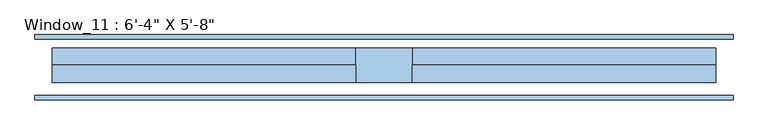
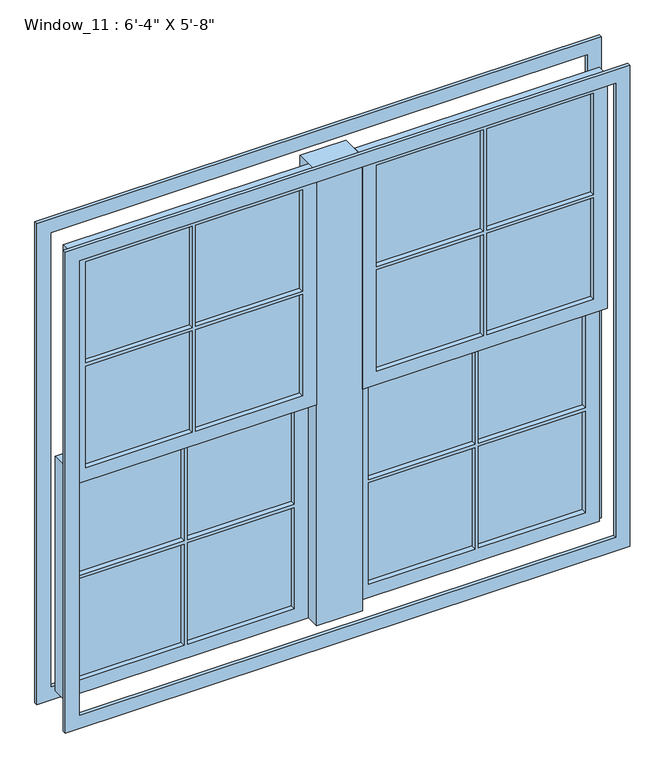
"""IFC4 building model written with IfcOpenShell, lengths in millimetres: window geometry."""

import ifcopenshell
import ifcopenshell.guid

model = None  # the IFC model being written
_history = None  # IfcOwnerHistory: only IFC2X3 demands one
_inside = {}  # id of a spatial element -> (the spatial element, [elements in it])
_under = {}  # id of a project, library or spatial element -> (it, [spatial elements below it])
_declared = {}  # id of a project -> (the project, [libraries it declares])
_typed = {}  # id of a type object -> (the type object, [elements of that type])
_made_of = {}  # id of a material, layer set ... -> (it, [elements and type objects made of it])


def new_model(schema):
    """Start an empty IFC model of exactly this schema.

    Asked for "IFC4X3", IfcOpenShell would pick the latest addendum, in which some entities
    have other attributes; the version numbers below select the first issue.
    IFC2X3 requires an IfcOwnerHistory on every rooted entity: one is made here for all.
    """
    global model, _history
    if schema == "IFC4X3":
        model = ifcopenshell.file(schema_version=(4, 3, 0, 0))
    else:
        model = ifcopenshell.file(schema=schema)
    _inside.clear()
    _under.clear()
    _declared.clear()
    _typed.clear()
    _made_of.clear()
    _history = None
    if model.schema == "IFC2X3":
        org = make("IfcOrganization", Name="unknown")
        user = make(
            "IfcPersonAndOrganization",
            ThePerson=make("IfcPerson", FamilyName="unknown"),
            TheOrganization=org,
        )
        app = make(
            "IfcApplication",
            ApplicationDeveloper=org,
            Version="unknown",
            ApplicationFullName="unknown",
            ApplicationIdentifier="unknown",
        )
        _history = make(
            "IfcOwnerHistory",
            OwningUser=user,
            OwningApplication=app,
            ChangeAction="ADDED",
            CreationDate=0,
        )
    return model


def make(cls, **values):
    """One entity of the class cls with the attributes given. An attribute that is None is left unset."""
    return model.create_entity(
        cls, **{name: value for name, value in values.items() if value is not None}
    )


def rooted(cls, **values):
    """An entity with a GlobalId (a new one), such as an element, a storey or a relation."""
    return make(cls, GlobalId=ifcopenshell.guid.new(), OwnerHistory=_history, **values)


def si_unit(unit_type, name, prefix=None):
    """IfcSIUnit, for example si_unit("LENGTHUNIT", "METRE", prefix="MILLI")."""
    return make("IfcSIUnit", UnitType=unit_type, Prefix=prefix, Name=name)


def assignment(units):
    """IfcUnitAssignment: the units of a project."""
    return None if units is None else make("IfcUnitAssignment", Units=units)


def point(xyz):
    """IfcCartesianPoint."""
    return None if xyz is None else make("IfcCartesianPoint", Coordinates=xyz)


def direction(xyz):
    """IfcDirection."""
    return None if xyz is None else make("IfcDirection", DirectionRatios=xyz)


def frame(location, z_axis=None, x_axis=None):
    """IfcAxis2Placement3D, a coordinate frame: its origin and axes. An axis left out is left unset."""
    return make(
        "IfcAxis2Placement3D",
        Location=point(location),
        Axis=direction(z_axis),
        RefDirection=direction(x_axis),
    )


def origin():
    """The frame at (0, 0, 0) with its axes left unset."""
    return frame((0.0, 0.0, 0.0))


def place(relative_to, where):
    """IfcLocalPlacement: puts the frame where relative to a parent placement (None: the world)."""
    return make(
        "IfcLocalPlacement", PlacementRelTo=relative_to, RelativePlacement=where
    )


def context(
    kind, dimensions, precision=None, world=None, true_north=None, identifier=None
):
    """IfcGeometricRepresentationContext, for example the 3D "Model" context."""
    return make(
        "IfcGeometricRepresentationContext",
        ContextIdentifier=identifier,
        ContextType=kind,
        CoordinateSpaceDimension=dimensions,
        Precision=precision,
        WorldCoordinateSystem=world,
        TrueNorth=true_north,
    )


def project(units=None, contexts=None):
    """IfcProject with its units and contexts."""
    return rooted(
        "IfcProject",
        Name="project",
        RepresentationContexts=contexts,
        UnitsInContext=assignment(units),
    )


def spatial(cls, under=None, at=None, **own):
    """A site, building, storey or space (cls), placed at a placement, below another one or the project."""
    s = rooted(cls, ObjectPlacement=at, **own)
    if under is not None:
        _under.setdefault(under.id(), (under, []))[1].append(s)
    return s


def polyline(points):
    """IfcPolyline through the points."""
    return make("IfcPolyline", Points=[point(p) for p in points])


def outline(outer, holes=None, kind="AREA"):
    """IfcArbitraryClosedProfileDef: a profile drawn as a closed curve; with holes, ...WithVoids."""
    if holes is None:
        return make("IfcArbitraryClosedProfileDef", ProfileType=kind, OuterCurve=outer)
    return make(
        "IfcArbitraryProfileDefWithVoids",
        ProfileType=kind,
        OuterCurve=outer,
        InnerCurves=holes,
    )


def extrude(swept, where, along, depth):
    """IfcExtrudedAreaSolid: the profile swept, set in the frame where, extruded along a direction by depth."""
    return make(
        "IfcExtrudedAreaSolid",
        SweptArea=swept,
        Position=where,
        ExtrudedDirection=direction(along),
        Depth=depth,
    )


def shape(context_of_items, identifier, shape_type, items):
    """IfcShapeRepresentation: the items that make up one representation, for example the "Body"."""
    return make(
        "IfcShapeRepresentation",
        ContextOfItems=context_of_items,
        RepresentationIdentifier=identifier,
        RepresentationType=shape_type,
        Items=items,
    )


def source(mapping_origin, context_of_items, identifier, shape_type, items):
    """IfcRepresentationMap: a shape defined once, which mapped items show again and again."""
    return make(
        "IfcRepresentationMap",
        MappingOrigin=mapping_origin,
        MappedRepresentation=shape(context_of_items, identifier, shape_type, items),
    )


def transform(
    local_origin,
    x_axis=None,
    y_axis=None,
    z_axis=None,
    scale=None,
    scale2=None,
    scale3=None,
    uniform=True,
):
    """IfcCartesianTransformationOperator3D, or its non-uniform kind. x_axis, y_axis, z_axis: its Axis1, 2, 3."""
    if uniform:
        return make(
            "IfcCartesianTransformationOperator3D",
            Axis1=direction(x_axis),
            Axis2=direction(y_axis),
            LocalOrigin=point(local_origin),
            Scale=scale,
            Axis3=direction(z_axis),
        )
    return make(
        "IfcCartesianTransformationOperator3DnonUniform",
        Axis1=direction(x_axis),
        Axis2=direction(y_axis),
        LocalOrigin=point(local_origin),
        Scale=scale,
        Axis3=direction(z_axis),
        Scale2=scale2,
        Scale3=scale3,
    )


def mapped(mapping_source, mapping_target):
    """IfcMappedItem: shows the shape of a source again, moved by a transform."""
    return make(
        "IfcMappedItem", MappingSource=mapping_source, MappingTarget=mapping_target
    )


def made_of(thing, what):
    """Note that an element or type object is made of a material, layer set ...; save() writes the relation."""
    if what is not None:
        _made_of.setdefault(what.id(), (what, []))[1].append(thing)
    return thing


def element(
    cls,
    number,
    at=None,
    inside=None,
    cuts=None,
    type_object=None,
    material=None,
    context=None,
    identifier="Body",
    shape_type=None,
    held_by="IfcProductDefinitionShape",
    body=None,
    shapes=None,
    **own,
):
    """One element of the class cls, such as IfcWall. Its Tag is "e" and its number.

    at: its placement. inside: the storey or other place that contains it. cuts: it is an
    opening in that element (IfcRelVoidsElement). A single representation is given by context,
    identifier, shape_type and body (its items); several are given by shapes. held_by: the class
    of the entity that holds the representations. save() writes the other relations.
    """
    e = rooted(cls, Tag="e%d" % number, ObjectPlacement=at, **own)
    if body is not None:
        shapes = [shape(context, identifier, shape_type, body)]
    if shapes is not None:
        e.Representation = make(held_by, Representations=shapes)
    if inside is not None:
        _inside.setdefault(inside.id(), (inside, []))[1].append(e)
    if cuts is not None:
        rooted(
            "IfcRelVoidsElement", RelatingBuildingElement=cuts, RelatedOpeningElement=e
        )
    if type_object is not None:
        _typed.setdefault(type_object.id(), (type_object, []))[1].append(e)
    return made_of(e, material)


def aggregate(whole, parts):
    """IfcRelAggregates: a whole, such as a stair, and the parts it consists of."""
    return rooted("IfcRelAggregates", RelatingObject=whole, RelatedObjects=parts)


def save(model, path):
    """Write the relations noted so far, then the file.

    IfcRelAggregates (storeys below a building ...), IfcRelContainedInSpatialStructure (elements
    in a storey), IfcRelDefinesByType, IfcRelAssociatesMaterial and IfcRelDeclares: one each for
    every whole, place, type object, material and project.
    """
    for whole, parts in _under.values():
        aggregate(whole, parts)
    for where, things in _inside.values():
        rooted(
            "IfcRelContainedInSpatialStructure",
            RelatedElements=things,
            RelatingStructure=where,
        )
    for kind, things in _typed.values():
        rooted("IfcRelDefinesByType", RelatedObjects=things, RelatingType=kind)
    for what, things in _made_of.values():
        rooted("IfcRelAssociatesMaterial", RelatedObjects=things, RelatingMaterial=what)
    for by, libraries in _declared.values():
        rooted("IfcRelDeclares", RelatingContext=by, RelatedDefinitions=libraries)
    model.write(path)


def window_1e95f7a6(model_context):
    return source(origin(), model_context, "Body", "SweptSolid", [
        extrude(outline(polyline([(914.4, -12.7), (914.4, -25.9853592), (530.225, -25.9853592), (530.225, -12.7), (914.4, -12.7)])), frame((0.0, 0.0, 2103.4375), z_axis=(0.0, 0.0, 1.0), x_axis=(1.0, 0.0, 0.0)), (0.0, 0.0, 1.0), 385.7625),
        extrude(outline(polyline([(-530.225, -12.7), (-530.225, -25.9853592), (-914.4, -25.9853592), (-914.4, -12.7), (-530.225, -12.7)])), frame((0.0, 0.0, 2103.4375), z_axis=(0.0, 0.0, 1.0), x_axis=(1.0, 0.0, 0.0)), (0.0, 0.0, 1.0), 385.7625),
        extrude(outline(polyline([(-133.35, -12.7), (-133.35, -25.9853592), (-517.525, -25.9853592), (-517.525, -12.7), (-133.35, -12.7)])), frame((0.0, 0.0, 2103.4375), z_axis=(0.0, 0.0, 1.0), x_axis=(1.0, 0.0, 0.0)), (0.0, 0.0, 1.0), 385.7625),
        extrude(outline(polyline([(914.4, -12.7), (914.4, -25.9853592), (530.225, -25.9853592), (530.225, -12.7), (914.4, -12.7)])), frame((0.0, 0.0, 1704.975), z_axis=(0.0, 0.0, 1.0), x_axis=(1.0, 0.0, 0.0)), (0.0, 0.0, 1.0), 385.7625),
        extrude(outline(polyline([(517.525, -12.7), (517.525, -25.9853592), (133.35, -25.9853592), (133.35, -12.7), (517.525, -12.7)])), frame((0.0, 0.0, 1704.975), z_axis=(0.0, 0.0, 1.0), x_axis=(1.0, 0.0, 0.0)), (0.0, 0.0, 1.0), 385.7625),
        extrude(outline(polyline([(517.525, -12.7), (517.525, -25.9853592), (133.35, -25.9853592), (133.35, -12.7), (517.525, -12.7)])), frame((0.0, 0.0, 2103.4375), z_axis=(0.0, 0.0, 1.0), x_axis=(1.0, 0.0, 0.0)), (0.0, 0.0, 1.0), 385.7625),
        extrude(outline(polyline([(-530.225, -12.7), (-530.225, -25.9853592), (-914.4, -25.9853592), (-914.4, -12.7), (-530.225, -12.7)])), frame((0.0, 0.0, 1704.975), z_axis=(0.0, 0.0, 1.0), x_axis=(1.0, 0.0, 0.0)), (0.0, 0.0, 1.0), 385.7625),
        extrude(outline(polyline([(-133.35, -12.7), (-133.35, -25.9853592), (-517.525, -25.9853592), (-517.525, -12.7), (-133.35, -12.7)])), frame((0.0, 0.0, 1704.975), z_axis=(0.0, 0.0, 1.0), x_axis=(1.0, 0.0, 0.0)), (0.0, 0.0, 1.0), 385.7625),
        extrude(outline(polyline([(2540.0, 82.55), (1654.175, 82.55), (1654.175, 965.2), (2540.0, 965.2), (2540.0, 82.55)]), holes=[polyline([(2489.2, 530.225), (2489.2, 914.4), (2103.4375, 914.4), (2103.4375, 530.225), (2489.2, 530.225)]), polyline([(1704.975, 530.225), (2090.7375, 530.225), (2090.7375, 914.4), (1704.975, 914.4), (1704.975, 530.225)]), polyline([(2090.7375, 133.35), (2090.7375, 517.525), (1704.975, 517.525), (1704.975, 133.35), (2090.7375, 133.35)]), polyline([(2103.4375, 517.525), (2103.4375, 133.35), (2489.2, 133.35), (2489.2, 517.525), (2103.4375, 517.525)])]), frame((0.0, -44.45, 0.0), z_axis=(0.0, 1.0, 0.0), x_axis=(0.0, 0.0, 1.0)), (0.0, 0.0, 1.0), 50.8),
        extrude(outline(polyline([(2540.0, -82.55), (2540.0, -965.2), (1654.175, -965.2), (1654.175, -82.55), (2540.0, -82.55)]), holes=[polyline([(2103.4375, -517.525), (2489.2, -517.525), (2489.2, -133.35), (2103.4375, -133.35), (2103.4375, -517.525)]), polyline([(2489.2, -530.225), (2103.4375, -530.225), (2103.4375, -914.4), (2489.2, -914.4), (2489.2, -530.225)]), polyline([(1704.975, -530.225), (1704.975, -914.4), (2090.7375, -914.4), (2090.7375, -530.225), (1704.975, -530.225)]), polyline([(2090.7375, -133.35), (1704.975, -133.35), (1704.975, -517.525), (2090.7375, -517.525), (2090.7375, -133.35)])]), frame((0.0, -44.45, 0.0), z_axis=(0.0, 1.0, 0.0), x_axis=(0.0, 0.0, 1.0)), (0.0, 0.0, 1.0), 50.8),
        extrude(outline(polyline([(530.225, 25.4), (530.225, 38.1), (914.4, 38.1), (914.4, 25.4), (530.225, 25.4)])), frame((0.0, 0.0, 863.6), z_axis=(0.0, 0.0, 1.0), x_axis=(1.0, 0.0, 0.0)), (0.0, 0.0, 1.0), 385.7625),
        extrude(outline(polyline([(133.35, 25.4), (133.35, 38.1), (517.525, 38.1), (517.525, 25.4), (133.35, 25.4)])), frame((0.0, 0.0, 863.6), z_axis=(0.0, 0.0, 1.0), x_axis=(1.0, 0.0, 0.0)), (0.0, 0.0, 1.0), 385.7625),
        extrude(outline(polyline([(-914.4, 25.4), (-914.4, 38.1), (-530.225, 38.1), (-530.225, 25.4), (-914.4, 25.4)])), frame((0.0, 0.0, 863.6), z_axis=(0.0, 0.0, 1.0), x_axis=(1.0, 0.0, 0.0)), (0.0, 0.0, 1.0), 385.7625),
        extrude(outline(polyline([(530.225, 25.4), (530.225, 38.1), (914.4, 38.1), (914.4, 25.4), (530.225, 25.4)])), frame((0.0, 0.0, 1262.0625), z_axis=(0.0, 0.0, 1.0), x_axis=(1.0, 0.0, 0.0)), (0.0, 0.0, 1.0), 392.1125),
        extrude(outline(polyline([(133.35, 25.4), (133.35, 38.1), (517.525, 38.1), (517.525, 25.4), (133.35, 25.4)])), frame((0.0, 0.0, 1262.0625), z_axis=(0.0, 0.0, 1.0), x_axis=(1.0, 0.0, 0.0)), (0.0, 0.0, 1.0), 392.1125),
        extrude(outline(polyline([(-914.4, 25.4), (-914.4, 38.1), (-530.225, 38.1), (-530.225, 25.4), (-914.4, 25.4)])), frame((0.0, 0.0, 1262.0625), z_axis=(0.0, 0.0, 1.0), x_axis=(1.0, 0.0, 0.0)), (0.0, 0.0, 1.0), 392.1125),
        extrude(outline(polyline([(-517.525, 25.4), (-517.525, 38.1), (-133.35, 38.1), (-133.35, 25.4), (-517.525, 25.4)])), frame((0.0, 0.0, 863.6), z_axis=(0.0, 0.0, 1.0), x_axis=(1.0, 0.0, 0.0)), (0.0, 0.0, 1.0), 385.7625),
        extrude(outline(polyline([(-517.525, 25.4), (-517.525, 38.1), (-133.35, 38.1), (-133.35, 25.4), (-517.525, 25.4)])), frame((0.0, 0.0, 1262.0625), z_axis=(0.0, 0.0, 1.0), x_axis=(1.0, 0.0, 0.0)), (0.0, 0.0, 1.0), 392.1125),
        extrude(outline(polyline([(1704.975, 82.55), (812.8, 82.55), (812.8, 965.2), (1704.975, 965.2), (1704.975, 82.55)]), holes=[polyline([(863.6, 530.225), (1249.3625, 530.225), (1249.3625, 914.4), (863.6, 914.4), (863.6, 530.225)]), polyline([(1654.175, 530.225), (1654.175, 914.4), (1262.0625, 914.4), (1262.0625, 530.225), (1654.175, 530.225)]), polyline([(1249.3625, 133.35), (1249.3625, 517.525), (863.6, 517.525), (863.6, 133.35), (1249.3625, 133.35)]), polyline([(1262.0625, 517.525), (1262.0625, 133.35), (1654.175, 133.35), (1654.175, 517.525), (1262.0625, 517.525)])]), frame((0.0, 6.35, 0.0), z_axis=(0.0, 1.0, 0.0), x_axis=(0.0, 0.0, 1.0)), (0.0, 0.0, 1.0), 50.8),
        extrude(outline(polyline([(812.8, -965.2), (812.8, -82.55), (1704.975, -82.55), (1704.975, -965.2), (812.8, -965.2)]), holes=[polyline([(863.6, -530.225), (863.6, -914.4), (1249.3625, -914.4), (1249.3625, -530.225), (863.6, -530.225)]), polyline([(1249.3625, -133.35), (863.6, -133.35), (863.6, -517.525), (1249.3625, -517.525), (1249.3625, -133.35)]), polyline([(1654.175, -530.225), (1262.0625, -530.225), (1262.0625, -914.4), (1654.175, -914.4), (1654.175, -530.225)]), polyline([(1262.0625, -517.525), (1654.175, -517.525), (1654.175, -133.35), (1262.0625, -133.35), (1262.0625, -517.525)])]), frame((0.0, 6.35, 0.0), z_axis=(0.0, 1.0, 0.0), x_axis=(0.0, 0.0, 1.0)), (0.0, 0.0, 1.0), 50.8),
        extrude(outline(polyline([(762.0, 1016.0), (2590.8, 1016.0), (2590.8, -1016.0), (762.0, -1016.0), (762.0, 1016.0)]), holes=[polyline([(812.8, 965.2), (812.8, -965.2), (2540.0, -965.2), (2540.0, 965.2), (812.8, 965.2)])]), frame((0.0, 82.55, 0.0), z_axis=(0.0, 1.0, 0.0), x_axis=(0.0, 0.0, 1.0)), (0.0, 0.0, 1.0), 12.7),
        extrude(outline(polyline([(762.0, 1016.0), (2590.8, 1016.0), (2590.8, -1016.0), (762.0, -1016.0), (762.0, 1016.0)]), holes=[polyline([(812.8, 965.2), (812.8, -965.2), (2540.0, -965.2), (2540.0, 965.2), (812.8, 965.2)])]), frame((0.0, -95.25, 0.0), z_axis=(0.0, 1.0, 0.0), x_axis=(0.0, 0.0, 1.0)), (0.0, 0.0, 1.0), 12.7),
        extrude(outline(polyline([(-82.55, -44.45), (-82.55, 57.15), (82.55, 57.15), (82.55, -44.45), (-82.55, -44.45)])), frame((0.0, 0.0, 812.8), z_axis=(0.0, 0.0, 1.0), x_axis=(1.0, 0.0, 0.0)), (0.0, 0.0, 1.0), 1727.2),
    ])


if __name__ == "__main__":
    model = new_model("IFC4")
    model_context = context("Model", 3, world=origin())
    ifc_project = project(units=[si_unit("LENGTHUNIT", "METRE", prefix="MILLI")], contexts=[model_context])
    site = spatial("IfcSite", under=ifc_project)
    building = spatial("IfcBuilding", under=site)
    placement = place(None, origin())
    window_shape = window_1e95f7a6(model_context)
    element("IfcWindow", 1, ObjectType="Window_11 : 6'-4\" X 5'-8\"", at=placement, inside=building, context=model_context, shape_type="MappedRepresentation", body=[
        mapped(window_shape, transform((0.0, 0.0, 0.0), x_axis=(1.0, 0.0, 0.0), y_axis=(0.0, 1.0, 0.0), z_axis=(0.0, 0.0, 1.0))),
    ])
    save(model, "model.ifc")
